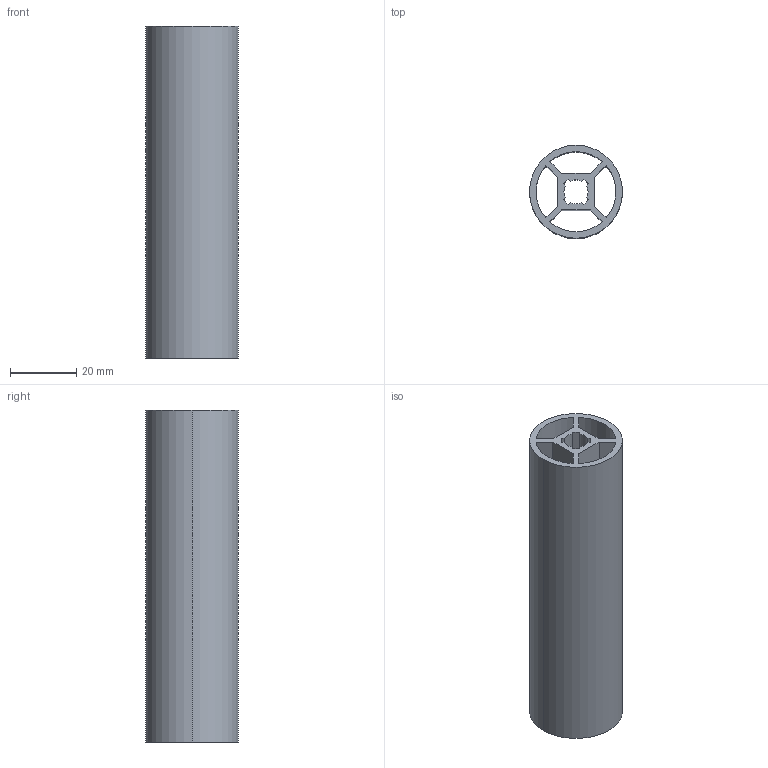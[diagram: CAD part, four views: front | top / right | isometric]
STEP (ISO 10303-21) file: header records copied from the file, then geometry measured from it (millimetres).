
FILE_DESCRIPTION (( 'STEP AP214' ), '1' );
FILE_NAME ('28mmx100.STEP', '2019-07-17T15:01:45', ( '' ), ( '' ), 'SwSTEP 2.0', 'SolidWorks 2018', '' );
FILE_SCHEMA (( 'AUTOMOTIVE_DESIGN' ));
Length unit declared in the file: millimetre
Products named in the file (1): 28mmx100
Bounding box: 28 x 28 x 100 mm (x, y, z)
Volume: 26430 mm3; surface area: 26666.6 mm2
Topology: 1 solids, 1 shells, 38 faces, 108 edges, 72 vertices
Faces by surface type: plane 26, cylinder 12
Entity records: 1290 total; most frequent: CARTESIAN_POINT 219, ORIENTED_EDGE 216, DIRECTION 210, EDGE_CURVE 108, VECTOR 84, LINE 84, VERTEX_POINT 72, AXIS2_PLACEMENT_3D 63
